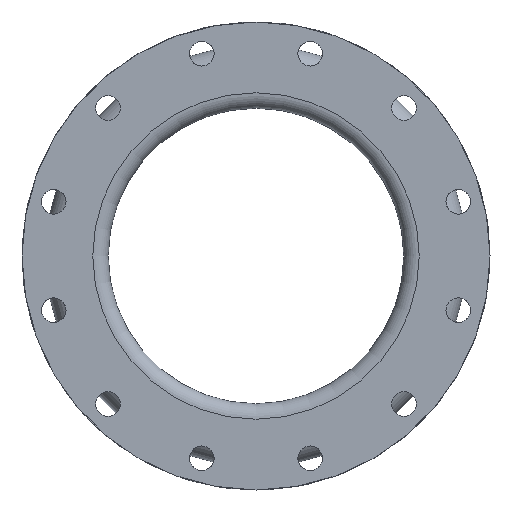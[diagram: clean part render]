
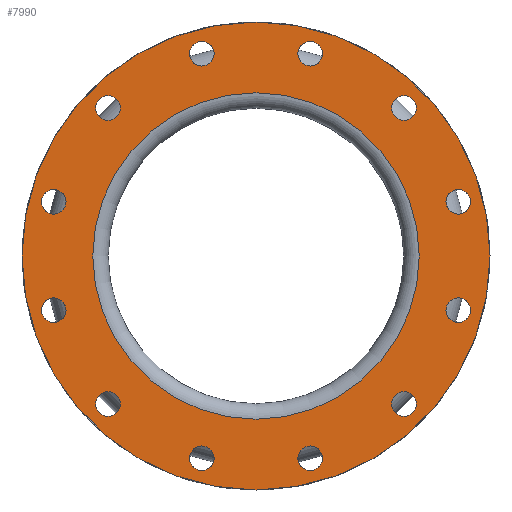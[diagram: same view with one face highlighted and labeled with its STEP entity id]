
A CAD part, left-side view. The second image highlights one B-rep face of the part: STEP entity #7990.
In plain terms, the highlighted planar face has unit normal (-1, 0, 0).
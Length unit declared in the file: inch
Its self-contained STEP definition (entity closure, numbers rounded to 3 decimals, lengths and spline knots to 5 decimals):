
#109=FACE_BOUND('',#1269,.T.);
#110=FACE_BOUND('',#1270,.T.);
#111=FACE_BOUND('',#1271,.T.);
#112=FACE_BOUND('',#1272,.T.);
#113=FACE_BOUND('',#1273,.T.);
#114=FACE_BOUND('',#1274,.T.);
#115=FACE_BOUND('',#1275,.T.);
#116=FACE_BOUND('',#1276,.T.);
#117=FACE_BOUND('',#1277,.T.);
#118=FACE_BOUND('',#1278,.T.);
#119=FACE_BOUND('',#1279,.T.);
#120=FACE_BOUND('',#1280,.T.);
#121=FACE_BOUND('',#1281,.T.);
#753=FACE_OUTER_BOUND('',#1268,.T.);
#1268=EDGE_LOOP('',(#6102));
#1269=EDGE_LOOP('',(#6103));
#1270=EDGE_LOOP('',(#6104));
#1271=EDGE_LOOP('',(#6105));
#1272=EDGE_LOOP('',(#6106));
#1273=EDGE_LOOP('',(#6107));
#1274=EDGE_LOOP('',(#6108));
#1275=EDGE_LOOP('',(#6109));
#1276=EDGE_LOOP('',(#6110));
#1277=EDGE_LOOP('',(#6111));
#1278=EDGE_LOOP('',(#6112));
#1279=EDGE_LOOP('',(#6113));
#1280=EDGE_LOOP('',(#6114));
#1281=EDGE_LOOP('',(#6115));
#2803=CIRCLE('',#8727,0.5);
#2805=CIRCLE('',#8730,0.5);
#2807=CIRCLE('',#8733,0.5);
#2809=CIRCLE('',#8736,0.5);
#2811=CIRCLE('',#8739,0.5);
#2813=CIRCLE('',#8742,0.5);
#2815=CIRCLE('',#8745,0.5);
#2817=CIRCLE('',#8748,0.5);
#2819=CIRCLE('',#8751,0.5);
#2821=CIRCLE('',#8754,0.5);
#2823=CIRCLE('',#8757,0.5);
#2825=CIRCLE('',#8760,0.5);
#2833=CIRCLE('',#8775,6.625);
#2834=CIRCLE('',#8777,9.5);
#3513=VERTEX_POINT('',#13039);
#3515=VERTEX_POINT('',#13044);
#3517=VERTEX_POINT('',#13049);
#3519=VERTEX_POINT('',#13054);
#3521=VERTEX_POINT('',#13059);
#3523=VERTEX_POINT('',#13064);
#3525=VERTEX_POINT('',#13069);
#3527=VERTEX_POINT('',#13074);
#3529=VERTEX_POINT('',#13079);
#3531=VERTEX_POINT('',#13084);
#3533=VERTEX_POINT('',#13089);
#3535=VERTEX_POINT('',#13094);
#3543=VERTEX_POINT('',#13117);
#3544=VERTEX_POINT('',#13120);
#4447=EDGE_CURVE('',#3513,#3513,#2803,.T.);
#4449=EDGE_CURVE('',#3515,#3515,#2805,.T.);
#4451=EDGE_CURVE('',#3517,#3517,#2807,.T.);
#4453=EDGE_CURVE('',#3519,#3519,#2809,.T.);
#4455=EDGE_CURVE('',#3521,#3521,#2811,.T.);
#4457=EDGE_CURVE('',#3523,#3523,#2813,.T.);
#4459=EDGE_CURVE('',#3525,#3525,#2815,.T.);
#4461=EDGE_CURVE('',#3527,#3527,#2817,.T.);
#4463=EDGE_CURVE('',#3529,#3529,#2819,.T.);
#4465=EDGE_CURVE('',#3531,#3531,#2821,.T.);
#4467=EDGE_CURVE('',#3533,#3533,#2823,.T.);
#4469=EDGE_CURVE('',#3535,#3535,#2825,.T.);
#4477=EDGE_CURVE('',#3543,#3543,#2833,.T.);
#4478=EDGE_CURVE('',#3544,#3544,#2834,.T.);
#6102=ORIENTED_EDGE('',*,*,#4478,.F.);
#6103=ORIENTED_EDGE('',*,*,#4477,.T.);
#6104=ORIENTED_EDGE('',*,*,#4447,.T.);
#6105=ORIENTED_EDGE('',*,*,#4449,.T.);
#6106=ORIENTED_EDGE('',*,*,#4451,.T.);
#6107=ORIENTED_EDGE('',*,*,#4453,.T.);
#6108=ORIENTED_EDGE('',*,*,#4455,.T.);
#6109=ORIENTED_EDGE('',*,*,#4457,.T.);
#6110=ORIENTED_EDGE('',*,*,#4459,.T.);
#6111=ORIENTED_EDGE('',*,*,#4461,.T.);
#6112=ORIENTED_EDGE('',*,*,#4463,.T.);
#6113=ORIENTED_EDGE('',*,*,#4465,.T.);
#6114=ORIENTED_EDGE('',*,*,#4467,.T.);
#6115=ORIENTED_EDGE('',*,*,#4469,.T.);
#7268=PLANE('',#8776);
#7990=ADVANCED_FACE('',(#753,#109,#110,#111,#112,#113,#114,#115,#116,#117,
#118,#119,#120,#121),#7268,.T.);
#8727=AXIS2_PLACEMENT_3D('',#13040,#10565,#10566);
#8730=AXIS2_PLACEMENT_3D('',#13045,#10571,#10572);
#8733=AXIS2_PLACEMENT_3D('',#13050,#10577,#10578);
#8736=AXIS2_PLACEMENT_3D('',#13055,#10583,#10584);
#8739=AXIS2_PLACEMENT_3D('',#13060,#10589,#10590);
#8742=AXIS2_PLACEMENT_3D('',#13065,#10595,#10596);
#8745=AXIS2_PLACEMENT_3D('',#13070,#10601,#10602);
#8748=AXIS2_PLACEMENT_3D('',#13075,#10607,#10608);
#8751=AXIS2_PLACEMENT_3D('',#13080,#10613,#10614);
#8754=AXIS2_PLACEMENT_3D('',#13085,#10619,#10620);
#8757=AXIS2_PLACEMENT_3D('',#13090,#10625,#10626);
#8760=AXIS2_PLACEMENT_3D('',#13095,#10631,#10632);
#8775=AXIS2_PLACEMENT_3D('',#13118,#10661,#10662);
#8776=AXIS2_PLACEMENT_3D('',#13119,#10663,#10664);
#8777=AXIS2_PLACEMENT_3D('',#13121,#10665,#10666);
#10565=DIRECTION('center_axis',(1.,0.,0.));
#10566=DIRECTION('ref_axis',(0.,-0.5,-0.866));
#10571=DIRECTION('center_axis',(1.,0.,0.));
#10572=DIRECTION('ref_axis',(0.,-0.866,-0.5));
#10577=DIRECTION('center_axis',(1.,0.,0.));
#10578=DIRECTION('ref_axis',(0.,-1.,0.));
#10583=DIRECTION('center_axis',(1.,0.,0.));
#10584=DIRECTION('ref_axis',(0.,-0.866,0.5));
#10589=DIRECTION('center_axis',(1.,0.,0.));
#10590=DIRECTION('ref_axis',(0.,-0.5,0.866));
#10595=DIRECTION('center_axis',(1.,0.,0.));
#10596=DIRECTION('ref_axis',(0.,0.,
1.));
#10601=DIRECTION('center_axis',(1.,0.,0.));
#10602=DIRECTION('ref_axis',(0.,0.5,0.866));
#10607=DIRECTION('center_axis',(1.,0.,0.));
#10608=DIRECTION('ref_axis',(0.,0.866,0.5));
#10613=DIRECTION('center_axis',(1.,0.,0.));
#10614=DIRECTION('ref_axis',(0.,1.,0.));
#10619=DIRECTION('center_axis',(1.,0.,0.));
#10620=DIRECTION('ref_axis',(0.,0.866,-0.5));
#10625=DIRECTION('center_axis',(1.,0.,0.));
#10626=DIRECTION('ref_axis',(0.,0.5,-0.866));
#10631=DIRECTION('center_axis',(1.,0.,0.));
#10632=DIRECTION('ref_axis',(0.,0.,-1.));
#10661=DIRECTION('center_axis',(1.,0.,0.));
#10662=DIRECTION('ref_axis',(0.,0.,-1.));
#10663=DIRECTION('center_axis',(-1.,0.,0.));
#10664=DIRECTION('ref_axis',(0.,0.,1.));
#10665=DIRECTION('center_axis',(1.,0.,0.));
#10666=DIRECTION('ref_axis',(0.,0.,-1.));
#13039=CARTESIAN_POINT('',(-4.,6.26041,-5.57739));
#13040=CARTESIAN_POINT('Origin',(-4.,6.01041,-6.01041));
#13044=CARTESIAN_POINT('',(-4.,2.63297,-7.96037));
#13045=CARTESIAN_POINT('Origin',(-4.,2.19996,-8.21037));
#13049=CARTESIAN_POINT('',(-4.,-1.69996,-8.21037));
#13050=CARTESIAN_POINT('Origin',(-4.,-2.19996,-8.21037));
#13054=CARTESIAN_POINT('',(-4.,-5.57739,-6.26041));
#13055=CARTESIAN_POINT('Origin',(-4.,-6.01041,-6.01041));
#13059=CARTESIAN_POINT('',(-4.,-7.96037,-2.63297));
#13060=CARTESIAN_POINT('Origin',(-4.,-8.21037,-2.19996));
#13064=CARTESIAN_POINT('',(-4.,-8.21037,1.69996));
#13065=CARTESIAN_POINT('Origin',(-4.,-8.21037,2.19996));
#13069=CARTESIAN_POINT('',(-4.,-6.26041,5.57739));
#13070=CARTESIAN_POINT('Origin',(-4.,-6.01041,6.01041));
#13074=CARTESIAN_POINT('',(-4.,-2.63297,7.96037));
#13075=CARTESIAN_POINT('Origin',(-4.,-2.19996,8.21037));
#13079=CARTESIAN_POINT('',(-4.,1.69996,8.21037));
#13080=CARTESIAN_POINT('Origin',(-4.,2.19996,8.21037));
#13084=CARTESIAN_POINT('',(-4.,5.57739,6.26041));
#13085=CARTESIAN_POINT('Origin',(-4.,6.01041,6.01041));
#13089=CARTESIAN_POINT('',(-4.,7.96037,2.63297));
#13090=CARTESIAN_POINT('Origin',(-4.,8.21037,2.19996));
#13094=CARTESIAN_POINT('',(-4.,8.21037,-1.69996));
#13095=CARTESIAN_POINT('Origin',(-4.,8.21037,-2.19996));
#13117=CARTESIAN_POINT('',(-4.,6.625,0.));
#13118=CARTESIAN_POINT('Origin',(-4.,0.,0.));
#13119=CARTESIAN_POINT('Origin',(-4.,9.5,0.));
#13120=CARTESIAN_POINT('',(-4.,9.5,0.));
#13121=CARTESIAN_POINT('Origin',(-4.,0.,0.));
